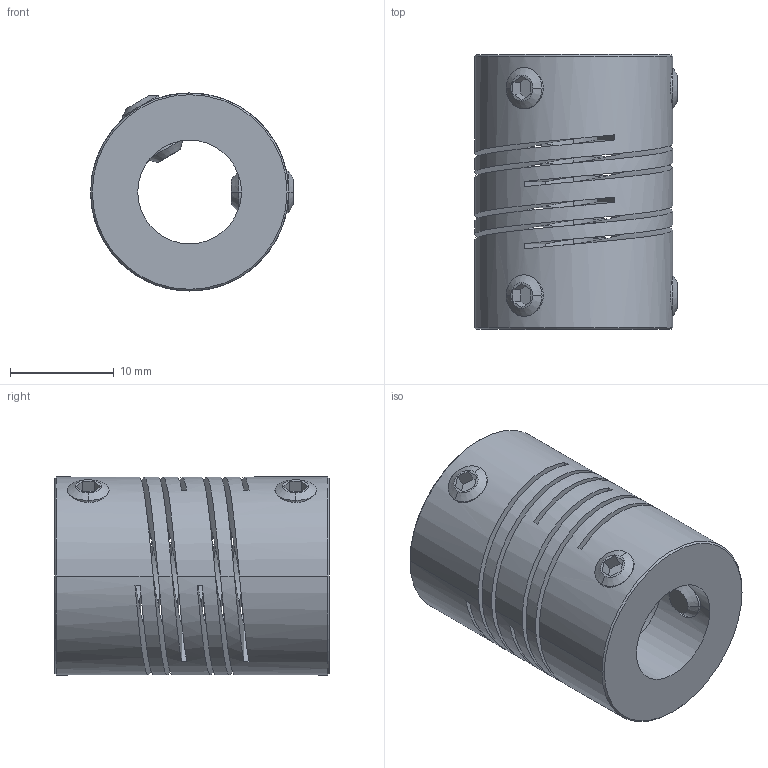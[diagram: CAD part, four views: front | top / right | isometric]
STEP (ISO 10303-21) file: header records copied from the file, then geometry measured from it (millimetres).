
FILE_DESCRIPTION((''),'2;1');
FILE_NAME('726_19_ASM','2006-12-05T',('Gary Melling'),(''),'PRO/ENGINEER BY PARAMETRIC TECHNOLOGY CORPORATION, 2006240','PRO/ENGINEER BY PARAMETRIC TECHNOLOGY CORPORATION, 2006240','');
FILE_SCHEMA(('CONFIG_CONTROL_DESIGN'));
Length unit declared in the file: millimetre
Products named in the file (3): 726_19; GS_4; 726_19_ASM
Assembly tree (5 placements, depth 2):
  726_19_ASM
    726_19
    GS_4  x4
Bounding box: 19.55 x 26.5 x 19.1 mm (x, y, z)
Volume: 4847.4 mm3; surface area: 5121.5 mm2
Topology: 5 solids, 5 shells, 116 faces, 316 edges, 200 vertices
Faces by surface type: plane 52, cylinder 32, cone 20, bspline 12
Entity records: 4424 total; most frequent: CARTESIAN_POINT 2493, ORIENTED_EDGE 440, DIRECTION 306, EDGE_CURVE 220, VERTEX_POINT 140, VECTOR 116, LINE 116, AXIS2_PLACEMENT_3D 95
